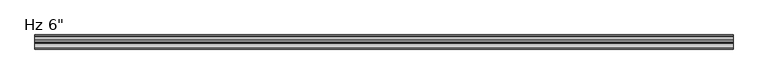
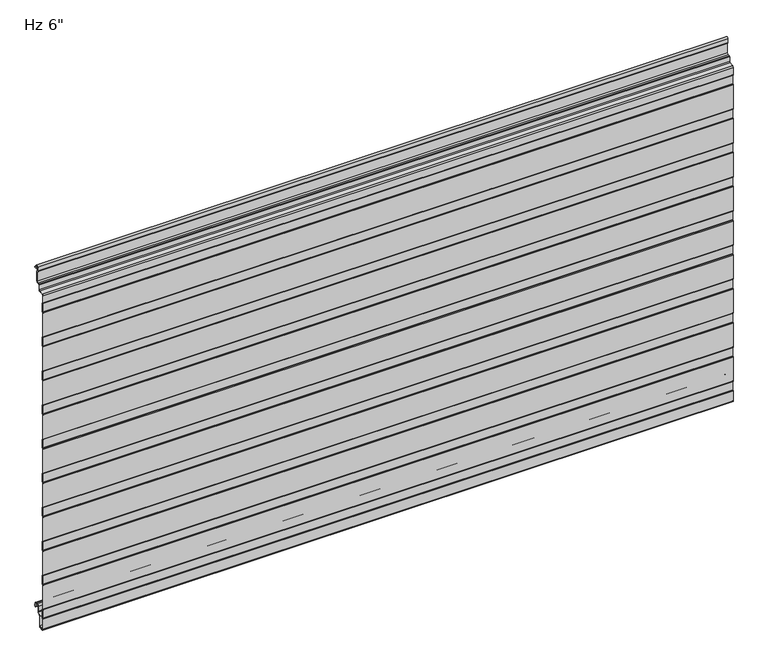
"""IFC4 building model written with IfcOpenShell, lengths in millimetres: plate geometry."""

from ifc_helpers import new_model, si_unit, point, frame, frame_2d, origin, place, context, project, spatial, polyline, circle_curve, trimmed, segment, composite_curve, outline, extrude, source, transform, mapped, element, save


def plate_28c68afe(model_context):
    return source(origin(), model_context, "Body", "SweptSolid", [
        extrude(outline(composite_curve([segment(trimmed(circle_curve(frame_2d((-150.9998717, -10.6415934)), 1.3998661), [point((-152.3997378, -10.6415934))], [point((-151.9324955, -9.5976403))], False, "CARTESIAN"), True, "CONTINUOUS"), segment(polyline([(-151.9324955, -9.5976403), (-151.1997693, -8.8649141), (-151.1997693, 10.0260713), (-151.9327349, 10.7590369)]), True, "CONTINUOUS"), segment(trimmed(circle_curve(frame_2d((-151.0000237, 11.8030877)), 1.3999972), [point((-151.9327349, 10.7590369))], [point((-152.4, 11.810741))], False, "CARTESIAN"), True, "CONTINUOUS"), segment(polyline([(-152.4, 11.810741), (-152.4, 65.5582542)]), True, "CONTINUOUS"), segment(trimmed(circle_curve(frame_2d((-151.0000028, 65.5582542)), 1.3999972), [point((-152.4, 65.5582542))], [point((-151.932714, 66.602305))], False, "CARTESIAN"), True, "CONTINUOUS"), segment(polyline([(-151.932714, 66.602305), (-151.1997693, 67.3352497), (-151.1997693, 86.2259189), (-151.9327349, 86.9588845)]), True, "CONTINUOUS"), segment(trimmed(circle_curve(frame_2d((-151.0000237, 88.0029353)), 1.3999972), [point((-151.9327349, 86.9588845))], [point((-152.4, 88.0105886))], False, "CARTESIAN"), True, "CONTINUOUS"), segment(polyline([(-152.4, 88.0105886), (-152.4, 141.7581018)]), True, "CONTINUOUS"), segment(trimmed(circle_curve(frame_2d((-151.0000028, 141.7581018)), 1.3999972), [point((-152.4, 141.7581018))], [point((-151.932714, 142.8021526))], False, "CARTESIAN"), True, "CONTINUOUS"), segment(polyline([(-151.932714, 142.8021526), (-151.1997693, 143.5350973), (-151.1997693, 162.4257665), (-151.9327349, 163.1587321)]), True, "CONTINUOUS"), segment(trimmed(circle_curve(frame_2d((-151.0000237, 164.2027829)), 1.3999972), [point((-151.9327349, 163.1587321))], [point((-152.4, 164.2104362))], False, "CARTESIAN"), True, "CONTINUOUS"), segment(polyline([(-152.4, 164.2104362), (-152.4, 217.9579494)]), True, "CONTINUOUS"), segment(trimmed(circle_curve(frame_2d((-151.0000028, 217.9579494)), 1.3999972), [point((-152.4, 217.9579494))], [point((-151.932714, 219.0020002))], False, "CARTESIAN"), True, "CONTINUOUS"), segment(polyline([(-151.932714, 219.0020002), (-151.1997693, 219.7349449), (-151.1997693, 238.6256141), (-151.9327349, 239.3585797)]), True, "CONTINUOUS"), segment(trimmed(circle_curve(frame_2d((-151.0000237, 240.4026305)), 1.3999972), [point((-151.9327349, 239.3585797))], [point((-152.4, 240.4102838))], False, "CARTESIAN"), True, "CONTINUOUS"), segment(polyline([(-152.4, 240.4102838), (-152.4, 294.157797)]), True, "CONTINUOUS"), segment(trimmed(circle_curve(frame_2d((-151.0000028, 294.157797)), 1.3999972), [point((-152.4, 294.157797))], [point((-151.932714, 295.2018478))], False, "CARTESIAN"), True, "CONTINUOUS"), segment(polyline([(-151.932714, 295.2018478), (-151.1997693, 295.9347925), (-151.1997693, 314.8254617), (-151.9327349, 315.5584273)]), True, "CONTINUOUS"), segment(trimmed(circle_curve(frame_2d((-151.0000237, 316.6024781)), 1.3999972), [point((-151.9327349, 315.5584273))], [point((-152.4, 316.6101314))], False, "CARTESIAN"), True, "CONTINUOUS"), segment(polyline([(-152.4, 316.6101314), (-152.4, 370.3576446)]), True, "CONTINUOUS"), segment(trimmed(circle_curve(frame_2d((-151.0000028, 370.3576446)), 1.3999972), [point((-152.4, 370.3576446))], [point((-151.932714, 371.4016954))], False, "CARTESIAN"), True, "CONTINUOUS"), segment(polyline([(-151.932714, 371.4016954), (-151.1997693, 372.1346401), (-151.1997693, 391.0253093), (-151.9327349, 391.7582749)]), True, "CONTINUOUS"), segment(trimmed(circle_curve(frame_2d((-151.0000237, 392.8023257)), 1.3999972), [point((-151.9327349, 391.7582749))], [point((-152.4, 392.809979))], False, "CARTESIAN"), True, "CONTINUOUS"), segment(polyline([(-152.4, 392.809979), (-152.4, 446.5574922)]), True, "CONTINUOUS"), segment(trimmed(circle_curve(frame_2d((-151.0000028, 446.5574922)), 1.3999972), [point((-152.4, 446.5574922))], [point((-151.932714, 447.601543))], False, "CARTESIAN"), True, "CONTINUOUS"), segment(polyline([(-151.932714, 447.601543), (-151.1997693, 448.3344877), (-151.1997693, 467.2251569), (-151.9327349, 467.9581225)]), True, "CONTINUOUS"), segment(trimmed(circle_curve(frame_2d((-151.0000237, 469.0021733)), 1.3999972), [point((-151.9327349, 467.9581225))], [point((-152.4, 469.0098266))], False, "CARTESIAN"), True, "CONTINUOUS"), segment(polyline([(-152.4, 469.0098266), (-152.4, 522.7573398)]), True, "CONTINUOUS"), segment(trimmed(circle_curve(frame_2d((-151.0000028, 522.7573398)), 1.3999972), [point((-152.4, 522.7573398))], [point((-151.932714, 523.8013906))], False, "CARTESIAN"), True, "CONTINUOUS"), segment(polyline([(-151.932714, 523.8013906), (-151.1997693, 524.5343353), (-151.1997693, 543.4250045), (-151.9327349, 544.1579701)]), True, "CONTINUOUS"), segment(trimmed(circle_curve(frame_2d((-151.0000237, 545.2020209)), 1.3999972), [point((-151.9327349, 544.1579701))], [point((-152.4, 545.2096742))], False, "CARTESIAN"), True, "CONTINUOUS"), segment(polyline([(-152.4, 545.2096742), (-152.4, 598.9571874)]), True, "CONTINUOUS"), segment(trimmed(circle_curve(frame_2d((-151.0000028, 598.9571874)), 1.3999972), [point((-152.4, 598.9571874))], [point((-151.932714, 600.0012382))], False, "CARTESIAN"), True, "CONTINUOUS"), segment(polyline([(-151.932714, 600.0012382), (-151.1997693, 600.7341829), (-151.1997693, 619.6248521), (-151.9327349, 620.3578177)]), True, "CONTINUOUS"), segment(trimmed(circle_curve(frame_2d((-151.0000237, 621.4018685)), 1.3999972), [point((-151.9327349, 620.3578177))], [point((-152.4, 621.4095218))], False, "CARTESIAN"), True, "CONTINUOUS"), segment(polyline([(-152.4, 621.4095218), (-152.4, 675.157035)]), True, "CONTINUOUS"), segment(trimmed(circle_curve(frame_2d((-151.0000028, 675.157035)), 1.3999972), [point((-152.4, 675.157035))], [point((-151.932714, 676.2010858))], False, "CARTESIAN"), True, "CONTINUOUS"), segment(polyline([(-151.932714, 676.2010858), (-151.1997693, 676.9340305), (-151.1997693, 695.8246997), (-151.9327349, 696.5576653)]), True, "CONTINUOUS"), segment(trimmed(circle_curve(frame_2d((-151.0000237, 697.6017161)), 1.3999972), [point((-151.9327349, 696.5576653))], [point((-152.3990984, 697.6525313))], False, "CARTESIAN"), True, "CONTINUOUS"), segment(polyline([(-152.3990984, 697.6525313), (-152.3990984, 713.5384359)]), True, "CONTINUOUS"), segment(trimmed(circle_curve(frame_2d((-149.4491043, 713.5384359)), 2.9499941), [point((-152.3990984, 713.5384359))], [point((-149.7062132, 716.4772044))], False, "CARTESIAN"), True, "CONTINUOUS"), segment(polyline([(-149.7062132, 716.4772044), (-141.2419168, 717.2177344)]), True, "CONTINUOUS"), segment(trimmed(circle_curve(frame_2d((-141.4188426, 719.2400056)), 2.0299959), [point((-141.2419168, 717.2177344))], [point((-139.3914567, 719.3429135))], True, "CARTESIAN"), True, "CONTINUOUS"), segment(polyline([(-139.3914567, 719.3429135), (-139.3914567, 729.4595941)]), True, "CONTINUOUS"), segment(trimmed(circle_curve(frame_2d((-137.4423033, 729.4595941)), 1.9491534), [point((-139.3914567, 729.4595941))], [point((-137.4423033, 731.4087475))], False, "CARTESIAN"), True, "CONTINUOUS"), segment(polyline([(-137.4423033, 731.4087475), (-134.3009036, 731.4087475)]), True, "CONTINUOUS"), segment(trimmed(circle_curve(frame_2d((-134.3009036, 734.4087415)), 2.999994), [point((-134.3009036, 731.4087475))], [point((-131.3009096, 734.4087415))], True, "CARTESIAN"), True, "CONTINUOUS"), segment(polyline([(-131.3009096, 734.4087415), (-131.3009096, 755.0122013), (-132.5467537, 755.7314897)]), True, "CONTINUOUS"), segment(trimmed(circle_curve(frame_2d((-131.8217552, 756.987224)), 1.4499971), [point((-132.5467537, 755.7314897))], [point((-133.2709833, 757.0344401))], False, "CARTESIAN"), True, "CONTINUOUS"), segment(polyline([(-133.2709833, 757.0344401), (-132.926075, 765.7463704)]), True, "CONTINUOUS"), segment(trimmed(circle_curve(frame_2d((-129.8266291, 765.6236622)), 3.1018739), [point((-132.926075, 765.7463704))], [point((-126.7275082, 765.7543204))], False, "CARTESIAN"), True, "CONTINUOUS"), segment(polyline([(-126.7275082, 765.7543204), (-126.4837214, 761.7587)]), True, "CONTINUOUS"), segment(trimmed(circle_curve(frame_2d((-125.6434917, 761.8099653)), 0.8417922), [point((-126.4837214, 761.7587))], [point((-125.6729389, 760.9686884))], True, "CARTESIAN"), True, "CONTINUOUS"), segment(polyline([(-125.6729389, 760.9686884), (-122.9025061, 760.9686884), (-122.9025061, 759.9686884), (-125.6870527, 759.9686884)]), True, "CONTINUOUS"), segment(trimmed(circle_curve(frame_2d((-125.6434917, 761.8099653)), 1.8417922), [point((-125.6870527, 759.9686884))], [point((-127.4818653, 761.6977997))], False, "CARTESIAN"), True, "CONTINUOUS"), segment(polyline([(-127.4818653, 761.6977997), (-127.7262802, 765.7037148)]), True, "CONTINUOUS"), segment(trimmed(circle_curve(frame_2d((-129.8266291, 765.6236622)), 2.1018739), [point((-127.7262802, 765.7037148))], [point((-131.9268578, 765.706811))], True, "CARTESIAN"), True, "CONTINUOUS"), segment(polyline([(-131.9268578, 765.706811), (-132.2821181, 756.7334028), (-130.3009096, 755.5895515), (-130.3009096, 734.4087415)]), True, "CONTINUOUS"), segment(trimmed(circle_curve(frame_2d((-134.3009036, 734.4087415)), 3.999994), [point((-130.3009096, 734.4087415))], [point((-134.3009036, 730.4087475))], False, "CARTESIAN"), True, "CONTINUOUS"), segment(polyline([(-134.3009036, 730.4087475), (-137.4423033, 730.4087475)]), True, "CONTINUOUS"), segment(trimmed(circle_curve(frame_2d((-137.4423033, 729.4595941)), 0.9491534), [point((-137.4423033, 730.4087475))], [point((-138.3914567, 729.4595941))], True, "CARTESIAN"), True, "CONTINUOUS"), segment(polyline([(-138.3914567, 729.4595941), (-138.3914567, 719.3657441)]), True, "CONTINUOUS"), segment(trimmed(circle_curve(frame_2d((-141.4188426, 719.2400056)), 3.0299959), [point((-138.3914567, 719.3657441))], [point((-141.154761, 716.2215397))], False, "CARTESIAN"), True, "CONTINUOUS"), segment(polyline([(-141.154761, 716.2215397), (-149.6190575, 715.4810097)]), True, "CONTINUOUS"), segment(trimmed(circle_curve(frame_2d((-149.4491043, 713.5384359)), 1.9499941), [point((-149.6190575, 715.4810097))], [point((-151.3990984, 713.5384359))], True, "CARTESIAN"), True, "CONTINUOUS"), segment(polyline([(-151.3990984, 713.5384359), (-151.3990984, 697.4396652), (-150.1997693, 696.2403361), (-150.1997693, 676.5209236), (-151.4, 675.3206929), (-151.4, 621.2405611), (-150.1997693, 620.0403304), (-150.1997693, 600.3209179), (-151.4, 599.1206872), (-151.4, 545.0405554), (-150.1997693, 543.8403247), (-150.1997693, 524.1209122), (-151.4, 522.9206815), (-151.4, 468.8405497), (-150.1997693, 467.640319), (-150.1997693, 447.9209065), (-151.4, 446.7206758), (-151.4, 392.640544), (-150.1997693, 391.4403133), (-150.1997693, 371.7209008), (-151.4, 370.5206701), (-151.4, 316.4405383), (-150.1997693, 315.2403076), (-150.1997693, 295.5208951), (-151.4, 294.3206644), (-151.4, 240.2405326), (-150.1997693, 239.0403019), (-150.1997693, 219.3208894), (-151.4, 218.1206587), (-151.4, 164.0405269), (-150.1997693, 162.8402962), (-150.1997693, 143.1208837), (-151.4, 141.920653), (-151.4, 87.8405213), (-150.1997693, 86.6402905), (-150.1997693, 66.920878), (-151.4, 65.7206473), (-151.4, 11.6405156), (-150.1997693, 10.4402849), (-150.1997693, -9.2791277), (-151.3997378, -10.4790962), (-151.3997378, -32.4521176)]), True, "CONTINUOUS"), segment(trimmed(circle_curve(frame_2d((-148.8294985, -32.4521176)), 2.5702393), [point((-151.3997378, -32.4521176))], [point((-148.6054129, -35.0125699))], True, "CARTESIAN"), True, "CONTINUOUS"), segment(polyline([(-148.6054129, -35.0125699), (-143.623592, -34.5765709)]), True, "CONTINUOUS"), segment(trimmed(circle_curve(frame_2d((-144.1049826, -31.9198392)), 2.6999926), [point((-143.623592, -34.5765709))], [point((-141.40499, -31.9198392))], True, "CARTESIAN"), True, "CONTINUOUS"), segment(polyline([(-141.40499, -31.9198392), (-141.40499, -9.8247096), (-135.9029189, -4.3226385)]), True, "CONTINUOUS"), segment(trimmed(circle_curve(frame_2d((-137.1049966, -3.1205608)), 1.6999946), [point((-135.9029189, -4.3226385))], [point((-135.405002, -3.1205608))], True, "CARTESIAN"), True, "CONTINUOUS"), segment(polyline([(-135.405002, -3.1205608), (-135.405002, 8.6903283)]), True, "CONTINUOUS"), segment(trimmed(circle_curve(frame_2d((-132.0550067, 8.6903283)), 3.3499953), [point((-135.405002, 8.6903283))], [point((-132.0550067, 12.0403236))], False, "CARTESIAN"), True, "CONTINUOUS"), segment(polyline([(-132.0550067, 12.0403236), (-127.6550155, 12.0403236)]), True, "CONTINUOUS"), segment(trimmed(circle_curve(frame_2d((-127.6550155, 8.6903283)), 3.3499953), [point((-127.6550155, 12.0403236))], [point((-124.3050202, 8.6903283))], False, "CARTESIAN"), True, "CONTINUOUS"), segment(polyline([(-124.3050202, 8.6903283), (-124.3050202, 5.9912173), (-122.9065413, 5.9912173), (-122.9065413, 2.2328239)]), True, "CONTINUOUS"), segment(trimmed(circle_curve(frame_2d((-124.106538, 2.2313092)), 1.1999976), [point((-122.9065413, 2.2328239))], [point((-124.0760161, 1.0316999))], False, "CARTESIAN"), True, "CONTINUOUS"), segment(trimmed(circle_curve(frame_2d((-124.106538, 2.2313092)), 1.1999976), [point((-124.0760161, 1.0316999))], [point((-125.3050202, 2.1710221))], False, "CARTESIAN"), True, "CONTINUOUS"), segment(polyline([(-125.3050202, 2.1710221), (-125.3050202, 8.6903283)]), True, "CONTINUOUS"), segment(trimmed(circle_curve(frame_2d((-127.6550155, 8.6903283)), 2.3499953), [point((-125.3050202, 8.6903283))], [point((-127.6550155, 11.0403236))], True, "CARTESIAN"), True, "CONTINUOUS"), segment(polyline([(-127.6550155, 11.0403236), (-132.0550067, 11.0403236)]), True, "CONTINUOUS"), segment(trimmed(circle_curve(frame_2d((-132.0550067, 8.6903283)), 2.3499953), [point((-132.0550067, 11.0403236))], [point((-134.405002, 8.6903283))], True, "CARTESIAN"), True, "CONTINUOUS"), segment(polyline([(-134.405002, 8.6903283), (-134.405002, -3.1205608)]), True, "CONTINUOUS"), segment(trimmed(circle_curve(frame_2d((-137.1049966, -3.1205608)), 2.6999946), [point((-134.405002, -3.1205608))], [point((-135.1958121, -5.0297453))], False, "CARTESIAN"), True, "CONTINUOUS"), segment(polyline([(-135.1958121, -5.0297453), (-140.0242296, -9.8581627)]), True, "CONTINUOUS"), segment(trimmed(circle_curve(frame_2d((-139.1049926, -10.7773997)), 1.2999974), [point((-140.0242296, -9.8581627))], [point((-140.40499, -10.7773997))], True, "CARTESIAN"), True, "CONTINUOUS"), segment(polyline([(-140.40499, -10.7773997), (-140.40499, -31.9198392)]), True, "CONTINUOUS"), segment(trimmed(circle_curve(frame_2d((-144.1049826, -31.9198392)), 3.6999926), [point((-140.40499, -31.9198392))], [point((-143.4941815, -35.5690675))], False, "CARTESIAN"), True, "CONTINUOUS"), segment(polyline([(-143.4941815, -35.5690675), (-148.5182281, -36.008762)]), True, "CONTINUOUS"), segment(trimmed(circle_curve(frame_2d((-148.8294985, -32.4521176)), 3.5702393), [point((-148.5182281, -36.008762))], [point((-152.3997378, -32.4521176))], False, "CARTESIAN"), True, "CONTINUOUS"), segment(polyline([(-152.3997378, -32.4521176), (-152.3997378, -10.6415934)]), True, "CONTINUOUS")], self_intersect=False)), frame((-730.0, 0.0, 0.0), z_axis=(1.0, 0.0, 0.0), x_axis=(0.0, 1.0, 0.0)), (0.0, 0.0, 1.0), 1460.0),
    ])


if __name__ == "__main__":
    model = new_model("IFC4")
    model_context = context("Model", 3, world=origin())
    ifc_project = project(units=[si_unit("LENGTHUNIT", "METRE", prefix="MILLI")], contexts=[model_context])
    site = spatial("IfcSite", under=ifc_project)
    building = spatial("IfcBuilding", under=site)
    placement = place(None, origin())
    plate_shape = plate_28c68afe(model_context)
    element("IfcPlate", 1, ObjectType="KIP-30-Karrier-KP-R19-CP-Hz-SL_SL : Hz 6\"", at=placement, inside=building, context=model_context, shape_type="MappedRepresentation", body=[
        mapped(plate_shape, transform((0.0, 0.0, 0.0), x_axis=(1.0, 0.0, 0.0), y_axis=(0.0, 1.0, 0.0), z_axis=(0.0, 0.0, 1.0))),
    ])
    save(model, "model.ifc")
